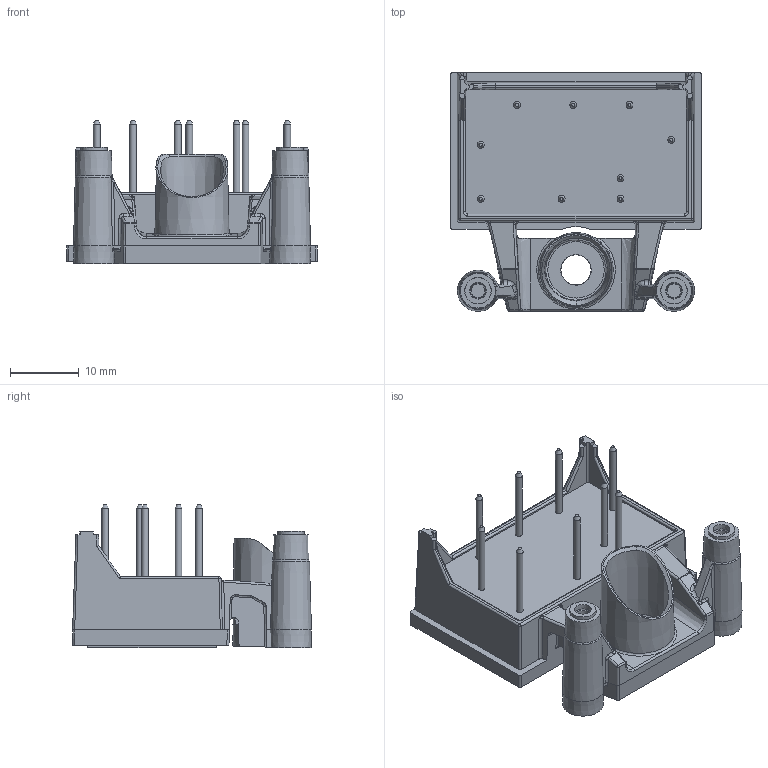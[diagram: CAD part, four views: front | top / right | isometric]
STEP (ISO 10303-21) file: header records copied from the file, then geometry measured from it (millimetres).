
FILE_DESCRIPTION(/* description */ ('Unknown'),/* implementation_level */ '2;1');
FILE_NAME(/* name */ 'Flow0B-2T17W-M980(090)-01-OL_2',/* time_stamp */ '2020-04-02T11:35:18+02:00',/* author */ ('Unknown'),/* organization */ ('Unknown'),/* preprocessor_version */ 'ST-DEVELOPER v16.7',/* originating_system */ 'Solid Edge',/* authorisation */ 'Unknown');
FILE_SCHEMA (('AUTOMOTIVE_DESIGN {1 0 10303 214 3 1 1}'));
Length unit declared in the file: millimetre
Products named in the file (1): FLOW0B-2T17W-M980(090)-01-OL
Bounding box: 36.6 x 34.85 x 20.98 mm (x, y, z)
Volume: 9398.8 mm3; surface area: 6021.3 mm2
Topology: 1 solids, 1 shells, 431 faces, 1089 edges, 683 vertices
Faces by surface type: plane 173, cylinder 136, bspline 68, cone 38, sphere 10, torus 6
Full cylindrical faces by diameter (mm): 1 x9
Entity records: 15802 total; most frequent: CARTESIAN_POINT 5844, ORIENTED_EDGE 2066, DIRECTION 1999, EDGE_CURVE 1033, AXIS2_PLACEMENT_3D 740, VERTEX_POINT 672, LINE 519, VECTOR 519
